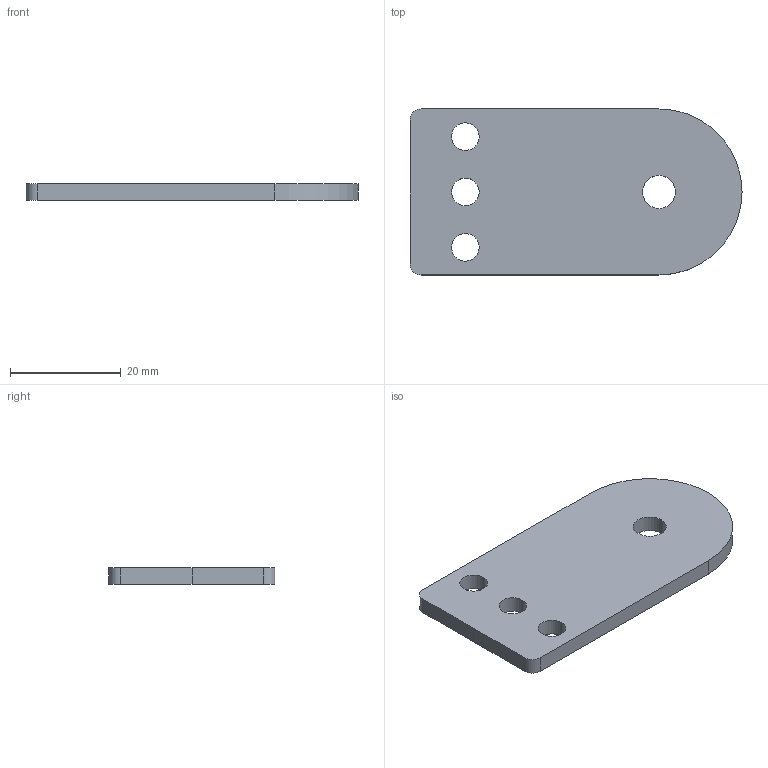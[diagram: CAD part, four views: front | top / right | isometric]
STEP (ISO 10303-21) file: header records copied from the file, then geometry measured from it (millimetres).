
FILE_DESCRIPTION((''),'2;1');
FILE_NAME('0000186940','2024-01-01T18:33:17',('Wyndorps'),(''),'CREO PARAMETRIC BY PTC INC, 2022484','CREO PARAMETRIC BY PTC INC, 2022484','');
FILE_SCHEMA(('CONFIG_CONTROL_DESIGN'));
Length unit declared in the file: millimetre
Products named in the file (1): 0000186940
Bounding box: 60 x 30 x 3 mm (x, y, z)
Volume: 4843.6 mm3; surface area: 3923.2 mm2
Topology: 1 solids, 1 shells, 17 faces, 45 edges, 30 vertices
Faces by surface type: cylinder 11, plane 6
Entity records: 595 total; most frequent: DIRECTION 101, CARTESIAN_POINT 92, ORIENTED_EDGE 90, EDGE_CURVE 45, AXIS2_PLACEMENT_3D 39, VERTEX_POINT 30, EDGE_LOOP 25, VECTOR 23
